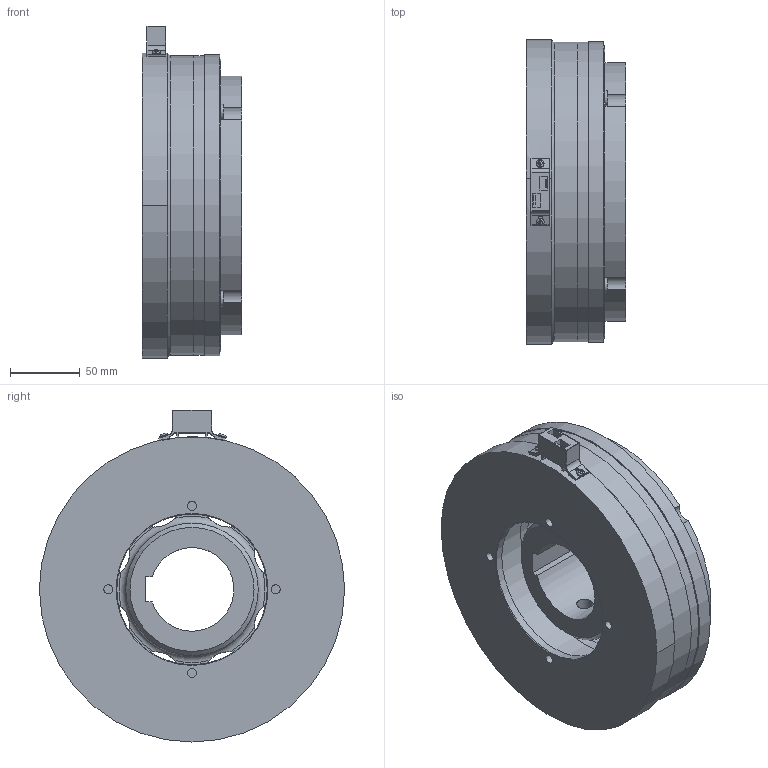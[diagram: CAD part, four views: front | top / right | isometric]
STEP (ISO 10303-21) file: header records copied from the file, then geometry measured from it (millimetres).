
FILE_DESCRIPTION(/* description */ (''),/* implementation_level */ '2;1');
FILE_NAME(/* name */ 'X:\INVENTOR\DISEGNI\08_Freni_Friz_Elettmag_Monodisco\08_28 EMFL_DF\EMFL_DF STEP\08_28_210_13 EMFL210_DF-C-MI_S@STEP.stp',/* time_stamp */ '2018-04-23T09:48:18+02:00',/* author */ ('stefano'),/* organization */ (''),/* preprocessor_version */ 'ST-DEVELOPER v17',/* originating_system */ 'Autodesk Inventor 2018',/* authorisation */ '');
FILE_SCHEMA (('AUTOMOTIVE_DESIGN { 1 0 10303 214 3 1 1 }'));
Length unit declared in the file: millimetre
Products named in the file (1): 08_28_210_13 EMFL210_DF-C-MI - Spina_Substitute_1
Bounding box: 71.5 x 219 x 238.25 mm (x, y, z)
Volume: 1428703 mm3; surface area: 314054.5 mm2
Topology: 1 solids, 1 shells, 514 faces, 1551 edges, 969 vertices
Faces by surface type: cylinder 257, plane 166, cone 36, torus 35, sphere 20
Full cylindrical faces by diameter (mm): 5.6 x2, 6 x1, 6.5 x4, 6.647 x4, 7 x8, 11 x8, 11.835 x2, 13 x16, 38 x8, 95 x1, 108 x1, 132 x2, 134 x1, 136 x1, 154.5 x1, 164 x2, 192 x2, 198.5 x1, 210 x1, 215 x2, 216 x1
Entity records: 18990 total; most frequent: CARTESIAN_POINT 3855, DIRECTION 3399, ORIENTED_EDGE 3056, EDGE_CURVE 1528, AXIS2_PLACEMENT_3D 1457, VERTEX_POINT 969, CIRCLE 942, EDGE_LOOP 607
